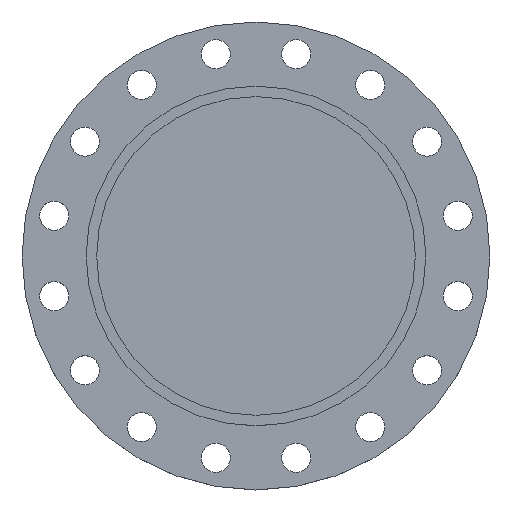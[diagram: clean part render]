
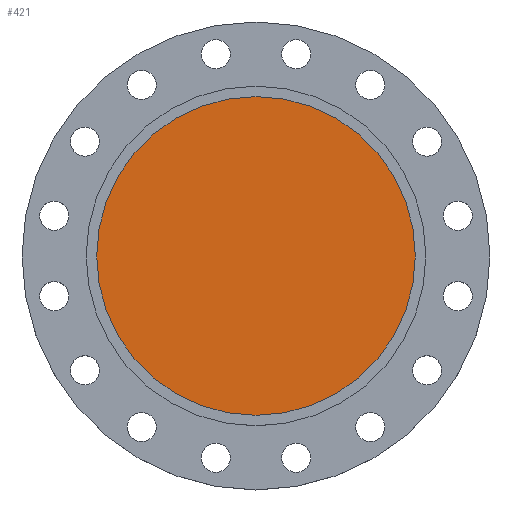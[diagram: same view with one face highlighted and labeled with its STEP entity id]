
A CAD part, top view. The second image highlights one B-rep face of the part: STEP entity #421.
In plain terms, the highlighted planar face has unit normal (0, 0, 1).
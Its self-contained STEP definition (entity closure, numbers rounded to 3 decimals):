
#38 = EDGE_CURVE ( 'NONE', #1370, #1527, #249, .T. ) ;
#159 = CARTESIAN_POINT ( 'NONE',  ( -197.5, 0., -5.5 ) ) ;
#224 = CARTESIAN_POINT ( 'NONE',  ( 197.5, 0., -5.5 ) ) ;
#249 = CIRCLE ( 'NONE', #255, 197.5 ) ;
#255 = AXIS2_PLACEMENT_3D ( 'NONE', #990, #987, #986 ) ;
#413 = DIRECTION ( 'NONE',  ( -1., 0., 0. ) ) ;
#414 = DIRECTION ( 'NONE',  ( 0., 0., -1. ) ) ;
#415 = CARTESIAN_POINT ( 'NONE',  ( 0., 0., -5.5 ) ) ;
#421 = ADVANCED_FACE ( 'NONE', ( #838 ), #835, .T. ) ;
#724 = AXIS2_PLACEMENT_3D ( 'NONE', #830, #829, #828 ) ;
#828 = DIRECTION ( 'NONE',  ( 1., 0., 0. ) ) ;
#829 = DIRECTION ( 'NONE',  ( 0., 0., 1. ) ) ;
#830 = CARTESIAN_POINT ( 'NONE',  ( 197.5, 0., -5.5 ) ) ;
#835 = PLANE ( 'NONE',  #724 ) ;
#838 = FACE_OUTER_BOUND ( 'NONE', #1496, .T. ) ;
#986 = DIRECTION ( 'NONE',  ( -1., 0., 0. ) ) ;
#987 = DIRECTION ( 'NONE',  ( 0., 0., -1. ) ) ;
#990 = CARTESIAN_POINT ( 'NONE',  ( 0., 0., -5.5 ) ) ;
#1204 = ORIENTED_EDGE ( 'NONE', *, *, #1222, .F. ) ;
#1207 = ORIENTED_EDGE ( 'NONE', *, *, #38, .F. ) ;
#1222 = EDGE_CURVE ( 'NONE', #1527, #1370, #1277, .T. ) ;
#1277 = CIRCLE ( 'NONE', #1288, 197.5 ) ;
#1288 = AXIS2_PLACEMENT_3D ( 'NONE', #415, #414, #413 ) ;
#1370 = VERTEX_POINT ( 'NONE', #224 ) ;
#1496 = EDGE_LOOP ( 'NONE', ( #1204, #1207 ) ) ;
#1527 = VERTEX_POINT ( 'NONE', #159 ) ;
